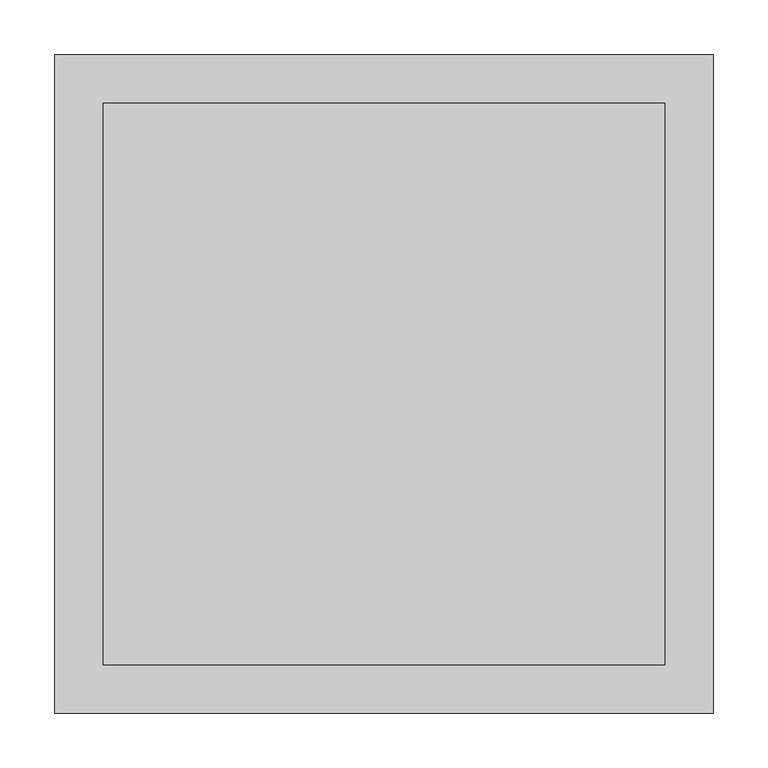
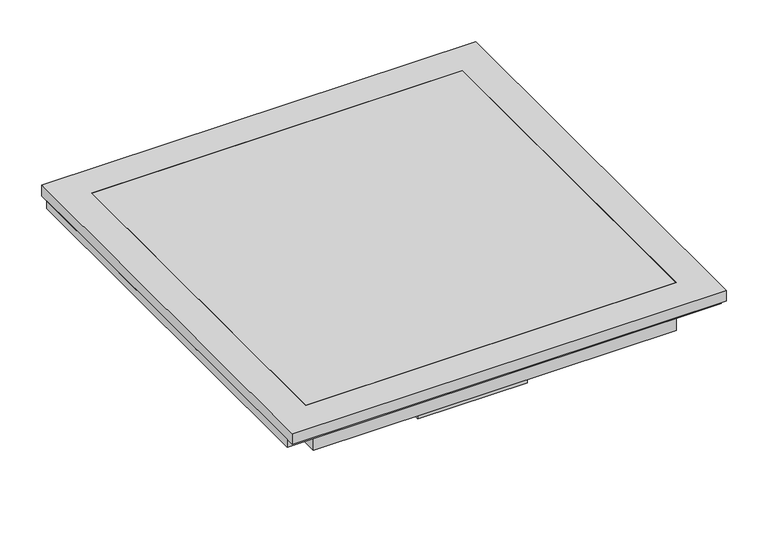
"""IFC4 building model written with IfcOpenShell, lengths in millimetres: light fixture geometry, TAURUS_CLIP_ATENALUX_MOT : 32W LED-F 4000K IRC_90 MOT RAL 9003 OPACO IP65."""

from ifc_helpers import new_model, si_unit, frame, origin, origin_with_axes, place, context, project, spatial, polyline, outline, extrude, faceted_brep, source, transform, mapped, element, save


def light_fixture_1bb1707f(model_context):
    return source(origin(), model_context, "Body", "SolidModel", [
        faceted_brep([(600.0, -12.0, 83.375), (600.0, -12.0, 94.5), (600.0, -588.0, 94.5), (600.0, -588.0, 83.375), (0.0, -12.0, 83.375), (0.0, -588.0, 83.375), (0.0, -588.0, 94.5), (0.0, -12.0, 94.5), (598.0, -12.0, 83.375), (2.0, -12.0, 83.375), (598.0, -586.0, 94.5), (2.0, -586.0, 94.5), (2.0, -14.0, 94.5), (598.0, -14.0, 94.5), (598.0, -14.0, 85.375), (2.0, -14.0, 85.375), (598.0, -586.0, 85.375), (2.0, -586.0, 85.375), (2.0, -588.0, 83.375), (598.0, -588.0, 83.375)], [[[0, 1, 2, 3]], [[4, 5, 6, 7]], [[7, 1, 0, 8, 9, 4]], [[7, 6, 2, 1], [10, 11, 12, 13]], [[14, 13, 12, 15]], [[16, 14, 15, 17]], [[10, 16, 17, 11]], [[3, 2, 6, 5, 18, 19]], [[0, 3, 19, 18, 5, 4, 9, 8]], [[10, 13, 14, 16]], [[12, 11, 17, 15]]]),
        extrude(outline(polyline([(376.0, -512.0), (224.0, -512.0), (224.0, -88.0), (376.0, -88.0), (376.0, -512.0)])), origin_with_axes(), (0.0, 0.0, 1.0), 47.5),
        extrude(outline(polyline([(35.0, -100.0), (49.0, -100.0), (49.0, -150.0), (35.0, -150.0), (35.0, -100.0)])), frame((0.0, 0.0, 47.5), z_axis=(0.0, 0.0, 1.0), x_axis=(1.0, 0.0, 0.0)), (0.0, 0.0, 1.0), 5.0),
        extrude(outline(polyline([(49.0, -500.0), (35.0, -500.0), (35.0, -450.0), (49.0, -450.0), (49.0, -500.0)])), frame((0.0, 0.0, 47.5), z_axis=(0.0, 0.0, 1.0), x_axis=(1.0, 0.0, 0.0)), (0.0, 0.0, 1.0), 5.0),
        extrude(outline(polyline([(551.0, -100.0), (565.0, -100.0), (565.0, -150.0), (551.0, -150.0), (551.0, -100.0)])), frame((0.0, 0.0, 47.5), z_axis=(0.0, 0.0, 1.0), x_axis=(1.0, 0.0, 0.0)), (0.0, 0.0, 1.0), 5.0),
        extrude(outline(polyline([(565.0, -500.0), (551.0, -500.0), (551.0, -450.0), (565.0, -450.0), (565.0, -500.0)])), frame((0.0, 0.0, 47.5), z_axis=(0.0, 0.0, 1.0), x_axis=(1.0, 0.0, 0.0)), (0.0, 0.0, 1.0), 5.0),
        extrude(outline(polyline([(551.0, -565.0), (49.0, -565.0), (49.0, -35.0), (551.0, -35.0), (551.0, -565.0)])), frame((0.0, 0.0, 47.5), z_axis=(0.0, 0.0, 1.0), x_axis=(1.0, 0.0, 0.0)), (0.0, 0.0, 1.0), 35.875),
        extrude(outline(polyline([(600.0, 0.0), (600.0, -600.0), (0.0, -600.0), (0.0, 0.0), (600.0, 0.0)]), holes=[polyline([(556.0, -44.0), (44.0, -44.0), (44.0, -556.0), (556.0, -556.0), (556.0, -44.0)])]), frame((0.0, 0.0, 94.5), z_axis=(0.0, 0.0, 1.0), x_axis=(1.0, 0.0, 0.0)), (0.0, 0.0, 1.0), 15.5),
        extrude(outline(polyline([(556.0, -44.0), (556.0, -556.0), (44.0, -556.0), (44.0, -44.0), (556.0, -44.0)])), frame((0.0, 0.0, 94.5), z_axis=(0.0, 0.0, 1.0), x_axis=(1.0, 0.0, 0.0)), (0.0, 0.0, 1.0), 15.5),
    ])


if __name__ == "__main__":
    model = new_model("IFC4")
    model_context = context("Model", 3, world=origin())
    ifc_project = project(units=[si_unit("LENGTHUNIT", "METRE", prefix="MILLI")], contexts=[model_context])
    site = spatial("IfcSite", under=ifc_project)
    building = spatial("IfcBuilding", under=site)
    placement = place(None, origin())
    light_fixture_shape = light_fixture_1bb1707f(model_context)
    element("IfcLightFixture", 1, ObjectType="TAURUS_CLIP_ATENALUX_MOT : 32W LED-F 4000K IRC_90 MOT RAL 9003 OPACO IP65", at=placement, inside=building, context=model_context, shape_type="MappedRepresentation", body=[
        mapped(light_fixture_shape, transform((0.0, 0.0, 0.0), x_axis=(1.0, 0.0, 0.0), y_axis=(0.0, 1.0, 0.0), z_axis=(0.0, 0.0, 1.0))),
    ])
    save(model, "model.ifc")
